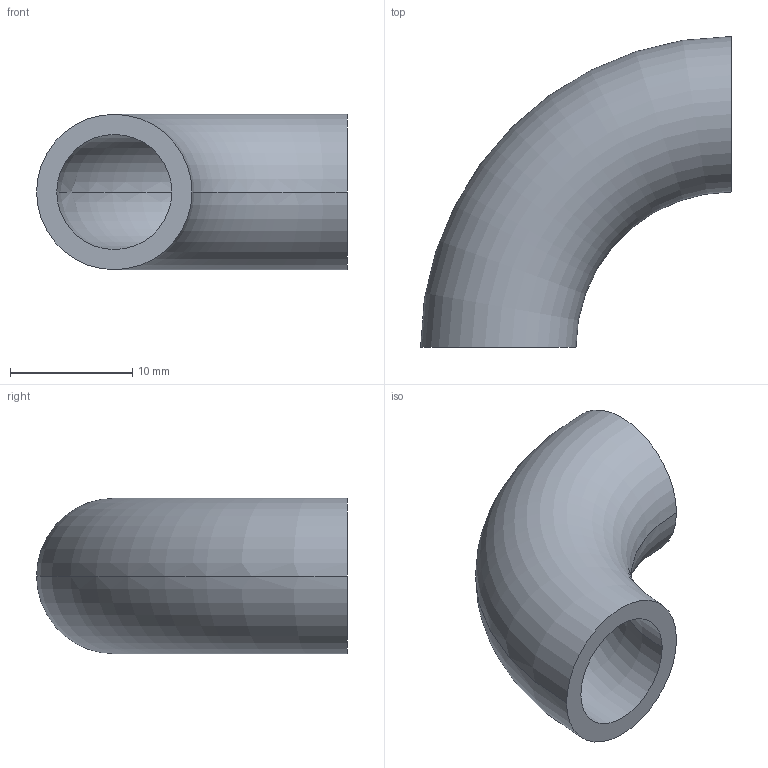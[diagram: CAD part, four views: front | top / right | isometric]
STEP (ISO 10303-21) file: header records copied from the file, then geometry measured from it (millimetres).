
FILE_DESCRIPTION (( 'STEP AP203' ), '1' );
FILE_NAME ('2WCL.5.STEP', '2018-04-27T15:32:02', ( 'vneprd' ), ( 'Microsoft' ), 'SwSTEP 2.0', 'SolidWorks 2014', '' );
FILE_SCHEMA (( 'CONFIG_CONTROL_DESIGN' ));
Length unit declared in the file: inch
Products named in the file (1): 2WCL.5
Bounding box: 25.4 x 25.4 x 12.7 mm (x, y, z)
Volume: 1714.9 mm3; surface area: 2192 mm2
Topology: 1 solids, 1 shells, 6 faces, 12 edges, 8 vertices
Faces by surface type: torus 4, plane 2
Entity records: 251 total; most frequent: DIRECTION 38, CARTESIAN_POINT 27, ORIENTED_EDGE 24, AXIS2_PLACEMENT_3D 19, CIRCLE 12, EDGE_CURVE 12, VERTEX_POINT 8, PERSON_AND_ORGANIZATION 8
